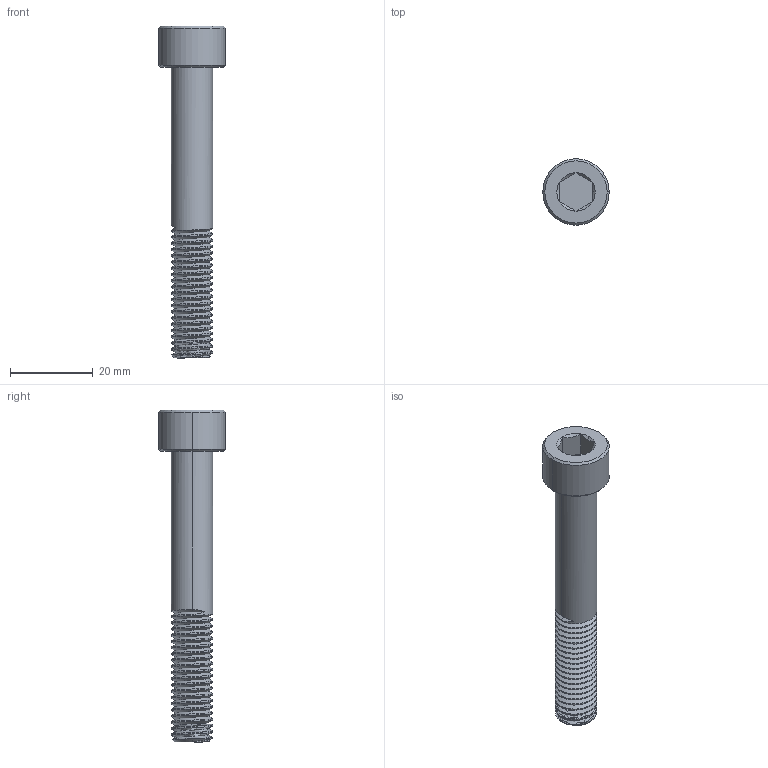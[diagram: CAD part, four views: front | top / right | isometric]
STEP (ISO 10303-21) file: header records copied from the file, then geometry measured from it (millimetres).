
FILE_DESCRIPTION (( 'STEP AP214' ), '1' );
FILE_NAME ('3-897-10070.STEP', '2020-05-21T14:42:46', ( '' ), ( '' ), 'SwSTEP 2.0', 'SolidWorks 2020', '' );
FILE_SCHEMA (( 'AUTOMOTIVE_DESIGN' ));
Length unit declared in the file: millimetre
Products named in the file (1): 3-897-10070
Bounding box: 16 x 16 x 80 mm (x, y, z)
Volume: 6783.7 mm3; surface area: 3834.2 mm2
Topology: 1 solids, 1 shells, 73 faces, 187 edges, 118 vertices
Faces by surface type: cylinder 45, cone 14, plane 12, bspline 2
Entity records: 4426 total; most frequent: CARTESIAN_POINT 2905, ORIENTED_EDGE 374, DIRECTION 251, EDGE_CURVE 187, VERTEX_POINT 118, AXIS2_PLACEMENT_3D 93, EDGE_LOOP 75, FACE_OUTER_BOUND 73
